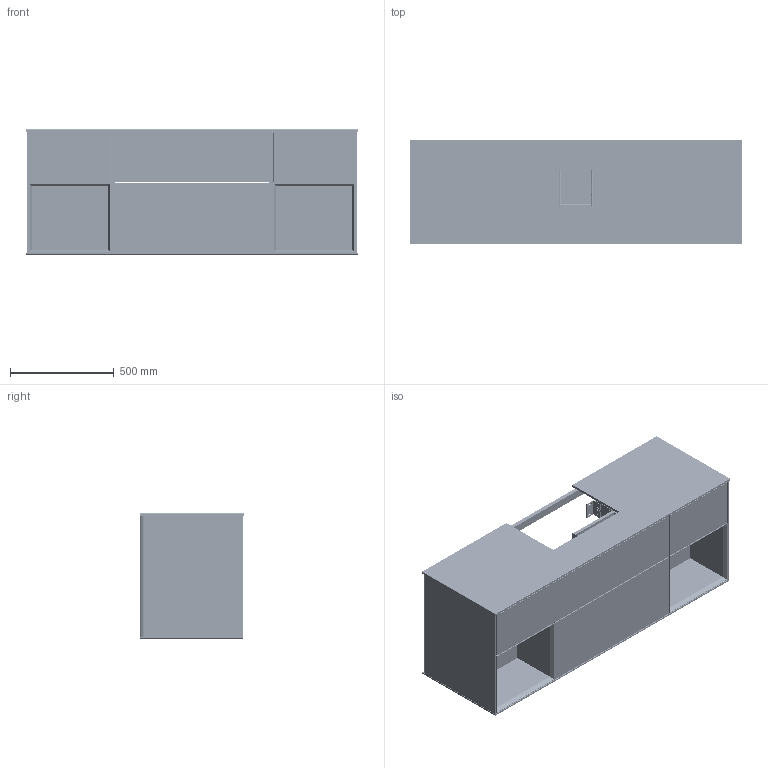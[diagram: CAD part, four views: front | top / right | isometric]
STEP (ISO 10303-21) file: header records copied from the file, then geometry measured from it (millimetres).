
FILE_DESCRIPTION((' '),'2;1');
FILE_NAME('M:\DWG\MÖBEL\3D-Zeichnungen Typen\Finion\STP\Finion_G21ZYYXX_3D.stp','2017-03-22T15:56:16',(' '),(' '),' ','ACIS',' ');
FILE_SCHEMA(('CONFIG_CONTROL_DESIGN'));
Length unit declared in the file: millimetre
Products named in the file (196): M:\DWG\MÖBEL\3D-Zeichnungen Typen\Finion\STP\Finion_G21ZYYXX_3D.stp; Körper1; Körper2; Körper3; Körper4; Körper5; Körper6; Körper7; Körper8; Körper9; Körper10; Körper11; Körper12; Körper13; Körper14; Körper15; Körper16; Körper17; Körper18; Körper19; Körper20; Körper21; Körper22; Körper23; Körper24; Körper25; Körper26; Körper27; Körper28; Körper29; Körper30; Körper31; Körper32; Körper33; Körper34; Körper35; Körper36; Körper37; Körper38; Körper39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
Assembly tree (195 placements, depth 2):
  M:\DWG\MÖBEL\3D-Zeichnungen Typen\Finion\STP\Finion_G21ZYYXX_3D.stp
    Körper1
    Körper2
    Körper3
    Körper4
    Körper5
    Körper6
    Körper7
    Körper8
    Körper9
    Körper10
    Körper11
    Körper12
    Körper13
    Körper14
    Körper15
    Körper16
    Körper17
    Körper18
    Körper19
    Körper20
    Körper21
    Körper22
    Körper23
    Körper24
    Körper25
    Körper26
    Körper27
    Körper28
    Körper29
    Körper30
    Körper31
    Körper32
    Körper33
    Körper34
    Körper35
    Körper36
    Körper37
    Körper38
    Körper39
    Körper40
    Körper41
    Körper42
    Körper43
    Körper44
    Körper45
    Körper46
    Körper47
    Körper48
    Körper49
    Körper50
    Körper51
    Körper52
    Körper53
    Körper54
    Körper55
    Körper56
    Körper57
    Körper58
    Körper59
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Bounding box: 1600 x 501 x 603 mm (x, y, z)
Volume: 86389170.6 mm3; surface area: 17097305.4 mm2
Topology: 242 solids, 242 shells, 13247 faces, 35245 edges, 23120 vertices
Faces by surface type: bspline 5504, plane 4670, cylinder 2696, cone 289, torus 58, sphere 30
Full cylindrical faces by diameter (mm): 2.086 x6, 2.5 x2, 3 x33, 3.2 x2, 3.5 x2, 4 x12, 5 x7, 6 x10, 7 x3, 8 x13, 8.02 x8, 10 x23, 12 x1, 30 x3
Entity records: 536991 total; most frequent: CARTESIAN_POINT 191326, ORIENTED_EDGE 69298, DIRECTION 60108, EDGE_CURVE 34649, VECTOR 23374, LINE 23374, VERTEX_POINT 23001, AXIS2_PLACEMENT_3D 18367
